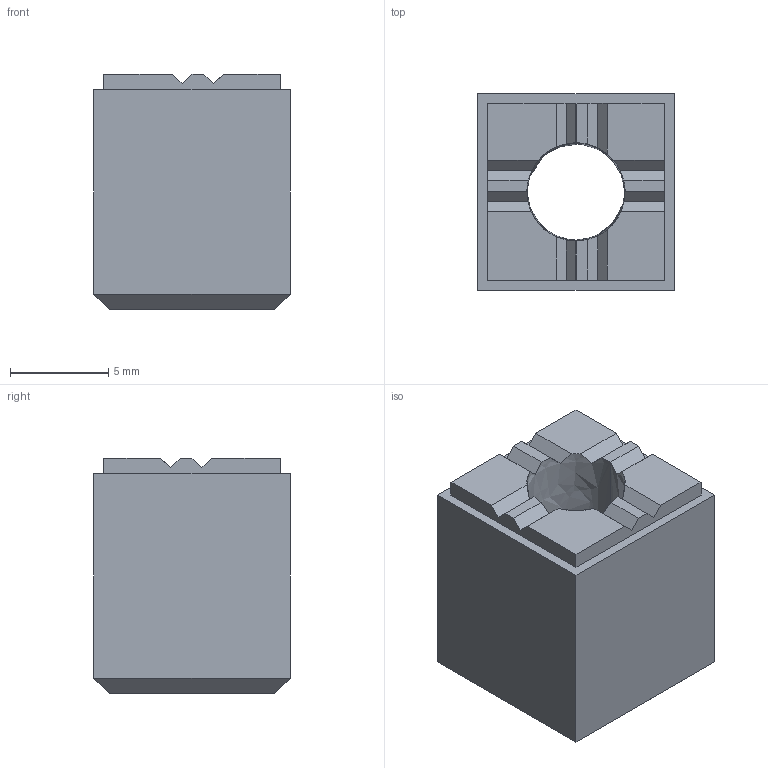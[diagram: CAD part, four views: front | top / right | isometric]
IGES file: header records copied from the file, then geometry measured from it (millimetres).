
Start section: SolidWorks IGES FILE using analytic representation for surfaces
Global section: file name: C:\WIX2\Positioning\3546\3546W002.igs; native system: SolidWorks 2003 by SolidWorks Corporation; preprocessor: Version 5.3; author: Joan; date: 030722.143900; units: millimetre
Bounding box: 10 x 10 x 12 mm (x, y, z)
Surface area: 809.3 mm2 (no closed solid volume)
Topology: 0 solids, 0 shells, 40 faces, 251 edges, 251 vertices
Faces by surface type: bspline 38, revolution 2
